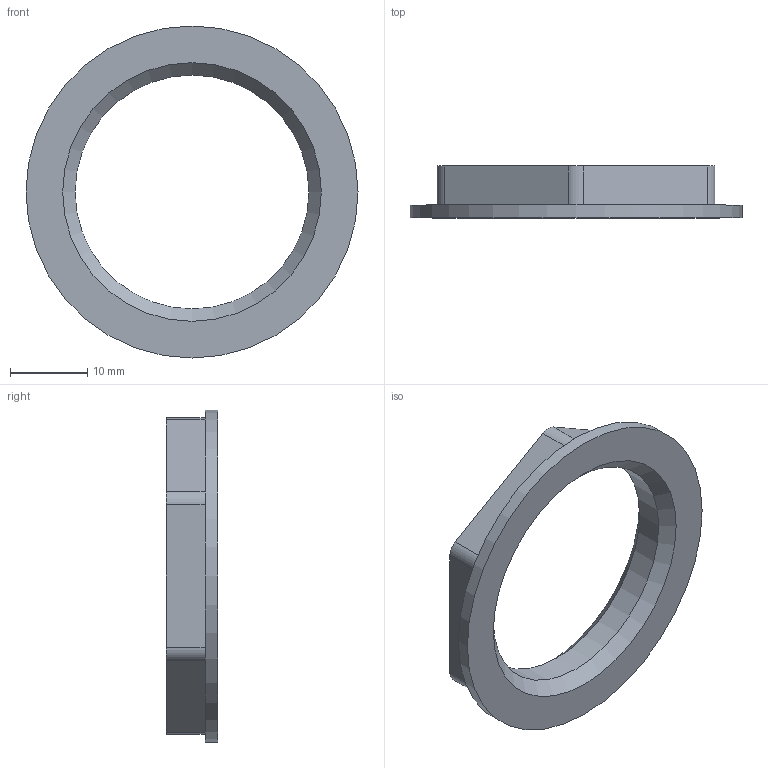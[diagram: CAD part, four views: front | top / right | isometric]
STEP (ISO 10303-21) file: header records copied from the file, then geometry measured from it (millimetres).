
FILE_DESCRIPTION(('STEP AP203'), '1');
FILE_NAME('覆.758414.003 - VTr.655.N.0006 扻艜謾骫罻', '2024-07-12T08:39:59', ('Boss'), (''), 'C3D Converter', 'C3D Toolkit', '');
FILE_SCHEMA(('CONFIG_CONTROL_DESIGN'));
Length unit declared in the file: millimetre
Products named in the file (1): ВР.758414.003
Bounding box: 43 x 6.7 x 43 mm (x, y, z)
Volume: 2976.8 mm3; surface area: 2775.1 mm2
Topology: 1 solids, 1 shells, 19 faces, 46 edges, 30 vertices
Faces by surface type: plane 9, cylinder 8, cone 2
Full cylindrical faces by diameter (mm): 30.292 x1, 43 x1
Entity records: 577 total; most frequent: DIRECTION 100, CARTESIAN_POINT 92, ORIENTED_EDGE 84, EDGE_CURVE 42, AXIS2_PLACEMENT_3D 38, VERTEX_POINT 30, EDGE_LOOP 26, LINE 24
